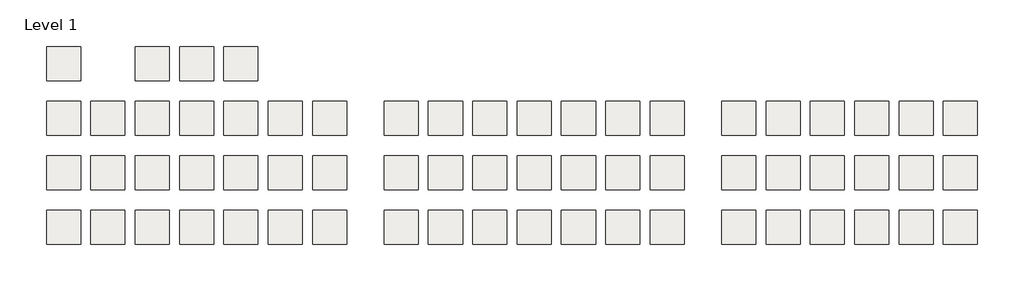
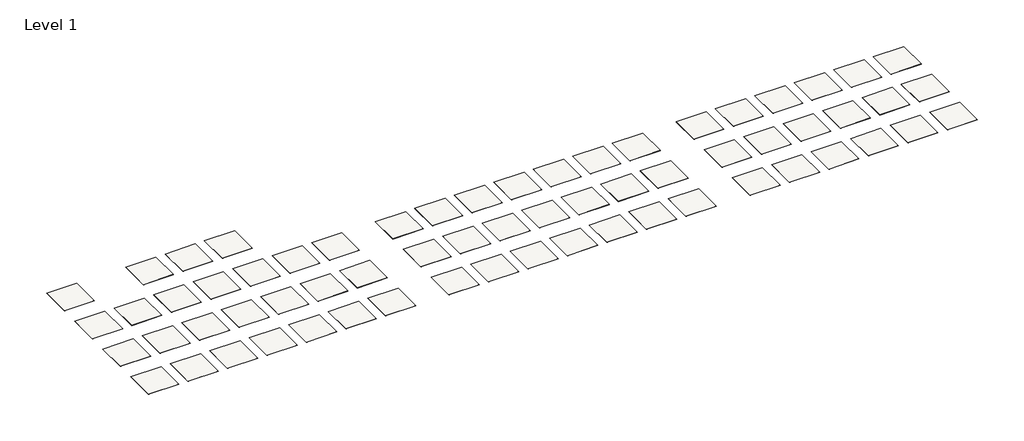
# One storey: 64 slabs.
"""IFC4 building model written with IfcOpenShell, lengths in millimetres."""

from ifc_helpers import new_model, si_unit, frame, origin, place, context, project, spatial, polyline, outline, extrude, element, save

model = new_model("IFC4")

# Units and contexts
model_context = context("Model", 3, world=origin())
ifc_project = project(units=[si_unit("LENGTHUNIT", "METRE", prefix="MILLI")], contexts=[model_context])

# Site, building, storey
site = spatial("IfcSite", under=ifc_project)
building = spatial("IfcBuilding", under=site)
storey = spatial("IfcBuildingStorey", under=building, Name="Level 1", Elevation=0.0)

# Slabs
placement = place(None, origin())
element("IfcSlab", 1, ObjectType="Armstrong_Sheet Vinyl_Medintone_H8300 cool white", at=placement, inside=storey, context=model_context, shape_type="SweptSolid", body=[
    extrude(outline(polyline([(3311.6055838, 2884.7695431), (3311.6055838, 1360.7695431), (1787.6055838, 1360.7695431), (1787.6055838, 2884.7695431), (3311.6055838, 2884.7695431)])), frame((0.0, 0.0, -1.984375), z_axis=(0.0, 0.0, 1.0), x_axis=(1.0, 0.0, 0.0)), (0.0, 0.0, 1.0), 1.984375),
])
element("IfcSlab", 2, ObjectType="Armstrong_Sheet Vinyl_Medintone_H8301 gray light", at=placement, inside=storey, context=model_context, shape_type="SweptSolid", body=[
    extrude(outline(polyline([(3311.6055838, 446.3695431), (3311.6055838, -1077.6304569), (1787.6055838, -1077.6304569), (1787.6055838, 446.3695431), (3311.6055838, 446.3695431)])), frame((0.0, 0.0, -1.984375), z_axis=(0.0, 0.0, 1.0), x_axis=(1.0, 0.0, 0.0)), (0.0, 0.0, 1.0), 1.984375),
])
element("IfcSlab", 3, ObjectType="Armstrong_Sheet Vinyl_Medintone_H8302 deep gray", at=placement, inside=storey, context=model_context, shape_type="SweptSolid", body=[
    extrude(outline(polyline([(3311.6055838, -1992.0304569), (3311.6055838, -3516.0304569), (1787.6055838, -3516.0304569), (1787.6055838, -1992.0304569), (3311.6055838, -1992.0304569)])), frame((0.0, 0.0, -1.984375), z_axis=(0.0, 0.0, 1.0), x_axis=(1.0, 0.0, 0.0)), (0.0, 0.0, 1.0), 1.984375),
])
element("IfcSlab", 4, ObjectType="Armstrong_Sheet Vinyl_Medintone_H8303 almost black", at=placement, inside=storey, context=model_context, shape_type="SweptSolid", body=[
    extrude(outline(polyline([(3311.6055838, -4430.4304569), (3311.6055838, -5954.4304569), (1787.6055838, -5954.4304569), (1787.6055838, -4430.4304569), (3311.6055838, -4430.4304569)])), frame((0.0, 0.0, -1.984375), z_axis=(0.0, 0.0, 1.0), x_axis=(1.0, 0.0, 0.0)), (0.0, 0.0, 1.0), 1.984375),
])
element("IfcSlab", 5, ObjectType="Armstrong_Sheet Vinyl_Medintone_H8304 natural gray light", at=placement, inside=storey, context=model_context, shape_type="SweptSolid", body=[
    extrude(outline(polyline([(5292.8055838, 446.3695431), (5292.8055838, -1077.6304569), (3768.8055838, -1077.6304569), (3768.8055838, 446.3695431), (5292.8055838, 446.3695431)])), frame((0.0, 0.0, -1.984375), z_axis=(0.0, 0.0, 1.0), x_axis=(1.0, 0.0, 0.0)), (0.0, 0.0, 1.0), 1.984375),
])
element("IfcSlab", 6, ObjectType="Armstrong_Sheet Vinyl_Medintone_H8305 natural gray", at=placement, inside=storey, context=model_context, shape_type="SweptSolid", body=[
    extrude(outline(polyline([(5292.8055838, -1992.0304569), (5292.8055838, -3516.0304569), (3768.8055838, -3516.0304569), (3768.8055838, -1992.0304569), (5292.8055838, -1992.0304569)])), frame((0.0, 0.0, -1.984375), z_axis=(0.0, 0.0, 1.0), x_axis=(1.0, 0.0, 0.0)), (0.0, 0.0, 1.0), 1.984375),
])
element("IfcSlab", 7, ObjectType="Armstrong_Sheet Vinyl_Medintone_H8306 natural gray dark", at=placement, inside=storey, context=model_context, shape_type="SweptSolid", body=[
    extrude(outline(polyline([(5292.8055838, -4430.4304569), (5292.8055838, -5954.4304569), (3768.8055838, -5954.4304569), (3768.8055838, -4430.4304569), (5292.8055838, -4430.4304569)])), frame((0.0, 0.0, -1.984375), z_axis=(0.0, 0.0, 1.0), x_axis=(1.0, 0.0, 0.0)), (0.0, 0.0, 1.0), 1.984375),
])
element("IfcSlab", 8, ObjectType="Armstrong_Sheet Vinyl_Medintone_H8307 rock dust light", at=placement, inside=storey, context=model_context, shape_type="SweptSolid", body=[
    extrude(outline(polyline([(7274.0055838, 2884.7695431), (7274.0055838, 1360.7695431), (5750.0055838, 1360.7695431), (5750.0055838, 2884.7695431), (7274.0055838, 2884.7695431)])), frame((0.0, 0.0, -1.984375), z_axis=(0.0, 0.0, 1.0), x_axis=(1.0, 0.0, 0.0)), (0.0, 0.0, 1.0), 1.984375),
])
element("IfcSlab", 9, ObjectType="Armstrong_Sheet Vinyl_Medintone_H8308 rock dust mid", at=placement, inside=storey, context=model_context, shape_type="SweptSolid", body=[
    extrude(outline(polyline([(7274.0055838, 446.3695431), (7274.0055838, -1077.6304569), (5750.0055838, -1077.6304569), (5750.0055838, 446.3695431), (7274.0055838, 446.3695431)])), frame((0.0, 0.0, -1.984375), z_axis=(0.0, 0.0, 1.0), x_axis=(1.0, 0.0, 0.0)), (0.0, 0.0, 1.0), 1.984375),
])
element("IfcSlab", 10, ObjectType="Armstrong_Sheet Vinyl_Medintone_H8309 rock dust", at=placement, inside=storey, context=model_context, shape_type="SweptSolid", body=[
    extrude(outline(polyline([(7274.0055838, -1992.0304569), (7274.0055838, -3516.0304569), (5750.0055838, -3516.0304569), (5750.0055838, -1992.0304569), (7274.0055838, -1992.0304569)])), frame((0.0, 0.0, -1.984375), z_axis=(0.0, 0.0, 1.0), x_axis=(1.0, 0.0, 0.0)), (0.0, 0.0, 1.0), 1.984375),
])
element("IfcSlab", 11, ObjectType="Armstrong_Sheet Vinyl_Medintone_H8310 rock brown", at=placement, inside=storey, context=model_context, shape_type="SweptSolid", body=[
    extrude(outline(polyline([(7274.0055838, -4430.4304569), (7274.0055838, -5954.4304569), (5750.0055838, -5954.4304569), (5750.0055838, -4430.4304569), (7274.0055838, -4430.4304569)])), frame((0.0, 0.0, -1.984375), z_axis=(0.0, 0.0, 1.0), x_axis=(1.0, 0.0, 0.0)), (0.0, 0.0, 1.0), 1.984375),
])
element("IfcSlab", 12, ObjectType="Armstrong_Sheet Vinyl_Medintone_H8311 natural white", at=placement, inside=storey, context=model_context, shape_type="SweptSolid", body=[
    extrude(outline(polyline([(9255.2055838, 2884.7695431), (9255.2055838, 1360.7695431), (7731.2055838, 1360.7695431), (7731.2055838, 2884.7695431), (9255.2055838, 2884.7695431)])), frame((0.0, 0.0, -1.984375), z_axis=(0.0, 0.0, 1.0), x_axis=(1.0, 0.0, 0.0)), (0.0, 0.0, 1.0), 1.984375),
])
element("IfcSlab", 13, ObjectType="Armstrong_Sheet Vinyl_Medintone_H8312 natural", at=placement, inside=storey, context=model_context, shape_type="SweptSolid", body=[
    extrude(outline(polyline([(9255.2055838, 446.3695431), (9255.2055838, -1077.6304569), (7731.2055838, -1077.6304569), (7731.2055838, 446.3695431), (9255.2055838, 446.3695431)])), frame((0.0, 0.0, -1.984375), z_axis=(0.0, 0.0, 1.0), x_axis=(1.0, 0.0, 0.0)), (0.0, 0.0, 1.0), 1.984375),
])
element("IfcSlab", 14, ObjectType="Armstrong_Sheet Vinyl_Medintone_H8313 natural tone", at=placement, inside=storey, context=model_context, shape_type="SweptSolid", body=[
    extrude(outline(polyline([(9255.2055838, -1992.0304569), (9255.2055838, -3516.0304569), (7731.2055838, -3516.0304569), (7731.2055838, -1992.0304569), (9255.2055838, -1992.0304569)])), frame((0.0, 0.0, -1.984375), z_axis=(0.0, 0.0, 1.0), x_axis=(1.0, 0.0, 0.0)), (0.0, 0.0, 1.0), 1.984375),
])
element("IfcSlab", 15, ObjectType="Armstrong_Sheet Vinyl_Medintone_H8314 natural brown", at=placement, inside=storey, context=model_context, shape_type="SweptSolid", body=[
    extrude(outline(polyline([(9255.2055838, -4430.4304569), (9255.2055838, -5954.4304569), (7731.2055838, -5954.4304569), (7731.2055838, -4430.4304569), (9255.2055838, -4430.4304569)])), frame((0.0, 0.0, -1.984375), z_axis=(0.0, 0.0, 1.0), x_axis=(1.0, 0.0, 0.0)), (0.0, 0.0, 1.0), 1.984375),
])
element("IfcSlab", 16, ObjectType="Armstrong_Sheet Vinyl_Medintone_H8315 light chocolate", at=placement, inside=storey, context=model_context, shape_type="SweptSolid", body=[
    extrude(outline(polyline([(11236.4055838, 2884.7695431), (11236.4055838, 1360.7695431), (9712.4055838, 1360.7695431), (9712.4055838, 2884.7695431), (11236.4055838, 2884.7695431)])), frame((0.0, 0.0, -1.984375), z_axis=(0.0, 0.0, 1.0), x_axis=(1.0, 0.0, 0.0)), (0.0, 0.0, 1.0), 1.984375),
])
element("IfcSlab", 17, ObjectType="Armstrong_Sheet Vinyl_Medintone_H8316 powder chocolate", at=placement, inside=storey, context=model_context, shape_type="SweptSolid", body=[
    extrude(outline(polyline([(11236.4055838, 446.3695431), (11236.4055838, -1077.6304569), (9712.4055838, -1077.6304569), (9712.4055838, 446.3695431), (11236.4055838, 446.3695431)])), frame((0.0, 0.0, -1.984375), z_axis=(0.0, 0.0, 1.0), x_axis=(1.0, 0.0, 0.0)), (0.0, 0.0, 1.0), 1.984375),
])
element("IfcSlab", 18, ObjectType="Armstrong_Sheet Vinyl_Medintone_H8317 milk chocolate 2", at=placement, inside=storey, context=model_context, shape_type="SweptSolid", body=[
    extrude(outline(polyline([(11236.4055838, -1992.0304569), (11236.4055838, -3516.0304569), (9712.4055838, -3516.0304569), (9712.4055838, -1992.0304569), (11236.4055838, -1992.0304569)])), frame((0.0, 0.0, -1.984375), z_axis=(0.0, 0.0, 1.0), x_axis=(1.0, 0.0, 0.0)), (0.0, 0.0, 1.0), 1.984375),
])
element("IfcSlab", 19, ObjectType="Armstrong_Sheet Vinyl_Medintone_H8318 chocolate brown", at=placement, inside=storey, context=model_context, shape_type="SweptSolid", body=[
    extrude(outline(polyline([(11236.4055838, -4430.4304569), (11236.4055838, -5954.4304569), (9712.4055838, -5954.4304569), (9712.4055838, -4430.4304569), (11236.4055838, -4430.4304569)])), frame((0.0, 0.0, -1.984375), z_axis=(0.0, 0.0, 1.0), x_axis=(1.0, 0.0, 0.0)), (0.0, 0.0, 1.0), 1.984375),
])
element("IfcSlab", 20, ObjectType="Armstrong_Sheet Vinyl_Medintone_H8319 sand light", at=placement, inside=storey, context=model_context, shape_type="SweptSolid", body=[
    extrude(outline(polyline([(13217.6055838, 446.3695431), (13217.6055838, -1077.6304569), (11693.6055838, -1077.6304569), (11693.6055838, 446.3695431), (13217.6055838, 446.3695431)])), frame((0.0, 0.0, -1.984375), z_axis=(0.0, 0.0, 1.0), x_axis=(1.0, 0.0, 0.0)), (0.0, 0.0, 1.0), 1.984375),
])
element("IfcSlab", 21, ObjectType="Armstrong_Sheet Vinyl_Medintone_H8320 sand mid", at=placement, inside=storey, context=model_context, shape_type="SweptSolid", body=[
    extrude(outline(polyline([(13217.6055838, -1992.0304569), (13217.6055838, -3516.0304569), (11693.6055838, -3516.0304569), (11693.6055838, -1992.0304569), (13217.6055838, -1992.0304569)])), frame((0.0, 0.0, -1.984375), z_axis=(0.0, 0.0, 1.0), x_axis=(1.0, 0.0, 0.0)), (0.0, 0.0, 1.0), 1.984375),
])
element("IfcSlab", 22, ObjectType="Armstrong_Sheet Vinyl_Medintone_H8321 sand", at=placement, inside=storey, context=model_context, shape_type="SweptSolid", body=[
    extrude(outline(polyline([(13217.6055838, -4430.4304569), (13217.6055838, -5954.4304569), (11693.6055838, -5954.4304569), (11693.6055838, -4430.4304569), (13217.6055838, -4430.4304569)])), frame((0.0, 0.0, -1.984375), z_axis=(0.0, 0.0, 1.0), x_axis=(1.0, 0.0, 0.0)), (0.0, 0.0, 1.0), 1.984375),
])
element("IfcSlab", 23, ObjectType="Armstrong_Sheet Vinyl_Medintone_H8322 amber light", at=placement, inside=storey, context=model_context, shape_type="SweptSolid", body=[
    extrude(outline(polyline([(15198.8055838, 446.3695431), (15198.8055838, -1077.6304569), (13674.8055838, -1077.6304569), (13674.8055838, 446.3695431), (15198.8055838, 446.3695431)])), frame((0.0, 0.0, -1.984375), z_axis=(0.0, 0.0, 1.0), x_axis=(1.0, 0.0, 0.0)), (0.0, 0.0, 1.0), 1.984375),
])
element("IfcSlab", 24, ObjectType="Armstrong_Sheet Vinyl_Medintone_H8323 amber mid", at=placement, inside=storey, context=model_context, shape_type="SweptSolid", body=[
    extrude(outline(polyline([(15198.8055838, -1992.0304569), (15198.8055838, -3516.0304569), (13674.8055838, -3516.0304569), (13674.8055838, -1992.0304569), (15198.8055838, -1992.0304569)])), frame((0.0, 0.0, -1.984375), z_axis=(0.0, 0.0, 1.0), x_axis=(1.0, 0.0, 0.0)), (0.0, 0.0, 1.0), 1.984375),
])
element("IfcSlab", 25, ObjectType="Armstrong_Sheet Vinyl_Medintone_H8324 amber", at=placement, inside=storey, context=model_context, shape_type="SweptSolid", body=[
    extrude(outline(polyline([(15198.8055838, -4430.4304569), (15198.8055838, -5954.4304569), (13674.8055838, -5954.4304569), (13674.8055838, -4430.4304569), (15198.8055838, -4430.4304569)])), frame((0.0, 0.0, -1.984375), z_axis=(0.0, 0.0, 1.0), x_axis=(1.0, 0.0, 0.0)), (0.0, 0.0, 1.0), 1.984375),
])
element("IfcSlab", 26, ObjectType="Armstrong_Sheet Vinyl_Medintone_H8325 purple brown light", at=placement, inside=storey, context=model_context, shape_type="SweptSolid", body=[
    extrude(outline(polyline([(18399.2055838, 446.3695431), (18399.2055838, -1077.6304569), (16875.2055838, -1077.6304569), (16875.2055838, 446.3695431), (18399.2055838, 446.3695431)])), frame((0.0, 0.0, -1.984375), z_axis=(0.0, 0.0, 1.0), x_axis=(1.0, 0.0, 0.0)), (0.0, 0.0, 1.0), 1.984375),
])
element("IfcSlab", 27, ObjectType="Armstrong_Sheet Vinyl_Medintone_H8326 purple brown mid", at=placement, inside=storey, context=model_context, shape_type="SweptSolid", body=[
    extrude(outline(polyline([(18399.2055838, -1992.0304569), (18399.2055838, -3516.0304569), (16875.2055838, -3516.0304569), (16875.2055838, -1992.0304569), (18399.2055838, -1992.0304569)])), frame((0.0, 0.0, -1.984375), z_axis=(0.0, 0.0, 1.0), x_axis=(1.0, 0.0, 0.0)), (0.0, 0.0, 1.0), 1.984375),
])
element("IfcSlab", 28, ObjectType="Armstrong_Sheet Vinyl_Medintone_H8327 purple brown", at=placement, inside=storey, context=model_context, shape_type="SweptSolid", body=[
    extrude(outline(polyline([(18399.2055838, -4430.4304569), (18399.2055838, -5954.4304569), (16875.2055838, -5954.4304569), (16875.2055838, -4430.4304569), (18399.2055838, -4430.4304569)])), frame((0.0, 0.0, -1.984375), z_axis=(0.0, 0.0, 1.0), x_axis=(1.0, 0.0, 0.0)), (0.0, 0.0, 1.0), 1.984375),
])
element("IfcSlab", 29, ObjectType="Armstrong_Sheet Vinyl_Medintone_H8328 grayed blue light", at=placement, inside=storey, context=model_context, shape_type="SweptSolid", body=[
    extrude(outline(polyline([(20380.4055838, 446.3695431), (20380.4055838, -1077.6304569), (18856.4055838, -1077.6304569), (18856.4055838, 446.3695431), (20380.4055838, 446.3695431)])), frame((0.0, 0.0, -1.984375), z_axis=(0.0, 0.0, 1.0), x_axis=(1.0, 0.0, 0.0)), (0.0, 0.0, 1.0), 1.984375),
])
element("IfcSlab", 30, ObjectType="Armstrong_Sheet Vinyl_Medintone_H8329 grayed blue mid", at=placement, inside=storey, context=model_context, shape_type="SweptSolid", body=[
    extrude(outline(polyline([(20380.4055838, -1992.0304569), (20380.4055838, -3516.0304569), (18856.4055838, -3516.0304569), (18856.4055838, -1992.0304569), (20380.4055838, -1992.0304569)])), frame((0.0, 0.0, -1.984375), z_axis=(0.0, 0.0, 1.0), x_axis=(1.0, 0.0, 0.0)), (0.0, 0.0, 1.0), 1.984375),
])
element("IfcSlab", 31, ObjectType="Armstrong_Sheet Vinyl_Medintone_H8330 grayed blue", at=placement, inside=storey, context=model_context, shape_type="SweptSolid", body=[
    extrude(outline(polyline([(20380.4055838, -4430.4304569), (20380.4055838, -5954.4304569), (18856.4055838, -5954.4304569), (18856.4055838, -4430.4304569), (20380.4055838, -4430.4304569)])), frame((0.0, 0.0, -1.984375), z_axis=(0.0, 0.0, 1.0), x_axis=(1.0, 0.0, 0.0)), (0.0, 0.0, 1.0), 1.984375),
])
element("IfcSlab", 32, ObjectType="Armstrong_Sheet Vinyl_Medintone_H8331 tea green light", at=placement, inside=storey, context=model_context, shape_type="SweptSolid", body=[
    extrude(outline(polyline([(22361.6055838, 446.3695431), (22361.6055838, -1077.6304569), (20837.6055838, -1077.6304569), (20837.6055838, 446.3695431), (22361.6055838, 446.3695431)])), frame((0.0, 0.0, -1.984375), z_axis=(0.0, 0.0, 1.0), x_axis=(1.0, 0.0, 0.0)), (0.0, 0.0, 1.0), 1.984375),
])
element("IfcSlab", 33, ObjectType="Armstrong_Sheet Vinyl_Medintone_H8332 tea green mid", at=placement, inside=storey, context=model_context, shape_type="SweptSolid", body=[
    extrude(outline(polyline([(22361.6055838, -1992.0304569), (22361.6055838, -3516.0304569), (20837.6055838, -3516.0304569), (20837.6055838, -1992.0304569), (22361.6055838, -1992.0304569)])), frame((0.0, 0.0, -1.984375), z_axis=(0.0, 0.0, 1.0), x_axis=(1.0, 0.0, 0.0)), (0.0, 0.0, 1.0), 1.984375),
])
element("IfcSlab", 34, ObjectType="Armstrong_Sheet Vinyl_Medintone_H8333 tea green", at=placement, inside=storey, context=model_context, shape_type="SweptSolid", body=[
    extrude(outline(polyline([(22361.6055838, -4430.4304569), (22361.6055838, -5954.4304569), (20837.6055838, -5954.4304569), (20837.6055838, -4430.4304569), (22361.6055838, -4430.4304569)])), frame((0.0, 0.0, -1.984375), z_axis=(0.0, 0.0, 1.0), x_axis=(1.0, 0.0, 0.0)), (0.0, 0.0, 1.0), 1.984375),
])
element("IfcSlab", 35, ObjectType="Armstrong_Sheet Vinyl_Medintone_H8334 gold dust light", at=placement, inside=storey, context=model_context, shape_type="SweptSolid", body=[
    extrude(outline(polyline([(24342.8055838, 446.3695431), (24342.8055838, -1077.6304569), (22818.8055838, -1077.6304569), (22818.8055838, 446.3695431), (24342.8055838, 446.3695431)])), frame((0.0, 0.0, -1.984375), z_axis=(0.0, 0.0, 1.0), x_axis=(1.0, 0.0, 0.0)), (0.0, 0.0, 1.0), 1.984375),
])
element("IfcSlab", 36, ObjectType="Armstrong_Sheet Vinyl_Medintone_H8335 gold dust mid", at=placement, inside=storey, context=model_context, shape_type="SweptSolid", body=[
    extrude(outline(polyline([(24342.8055838, -1992.0304569), (24342.8055838, -3516.0304569), (22818.8055838, -3516.0304569), (22818.8055838, -1992.0304569), (24342.8055838, -1992.0304569)])), frame((0.0, 0.0, -1.984375), z_axis=(0.0, 0.0, 1.0), x_axis=(1.0, 0.0, 0.0)), (0.0, 0.0, 1.0), 1.984375),
])
element("IfcSlab", 37, ObjectType="Armstrong_Sheet Vinyl_Medintone_H8336 gold dust", at=placement, inside=storey, context=model_context, shape_type="SweptSolid", body=[
    extrude(outline(polyline([(24342.8055838, -4430.4304569), (24342.8055838, -5954.4304569), (22818.8055838, -5954.4304569), (22818.8055838, -4430.4304569), (24342.8055838, -4430.4304569)])), frame((0.0, 0.0, -1.984375), z_axis=(0.0, 0.0, 1.0), x_axis=(1.0, 0.0, 0.0)), (0.0, 0.0, 1.0), 1.984375),
])
element("IfcSlab", 38, ObjectType="Armstrong_Sheet Vinyl_Medintone_H8337 orange spice light", at=placement, inside=storey, context=model_context, shape_type="SweptSolid", body=[
    extrude(outline(polyline([(26324.0055838, 446.3695431), (26324.0055838, -1077.6304569), (24800.0055838, -1077.6304569), (24800.0055838, 446.3695431), (26324.0055838, 446.3695431)])), frame((0.0, 0.0, -1.984375), z_axis=(0.0, 0.0, 1.0), x_axis=(1.0, 0.0, 0.0)), (0.0, 0.0, 1.0), 1.984375),
])
element("IfcSlab", 39, ObjectType="Armstrong_Sheet Vinyl_Medintone_H8338 orange spice mid", at=placement, inside=storey, context=model_context, shape_type="SweptSolid", body=[
    extrude(outline(polyline([(26324.0055838, -1992.0304569), (26324.0055838, -3516.0304569), (24800.0055838, -3516.0304569), (24800.0055838, -1992.0304569), (26324.0055838, -1992.0304569)])), frame((0.0, 0.0, -1.984375), z_axis=(0.0, 0.0, 1.0), x_axis=(1.0, 0.0, 0.0)), (0.0, 0.0, 1.0), 1.984375),
])
element("IfcSlab", 40, ObjectType="Armstrong_Sheet Vinyl_Medintone_H8339 orange spice", at=placement, inside=storey, context=model_context, shape_type="SweptSolid", body=[
    extrude(outline(polyline([(26324.0055838, -4430.4304569), (26324.0055838, -5954.4304569), (24800.0055838, -5954.4304569), (24800.0055838, -4430.4304569), (26324.0055838, -4430.4304569)])), frame((0.0, 0.0, -1.984375), z_axis=(0.0, 0.0, 1.0), x_axis=(1.0, 0.0, 0.0)), (0.0, 0.0, 1.0), 1.984375),
])
element("IfcSlab", 41, ObjectType="Armstrong_Sheet Vinyl_Medintone_H8340 terracotta light", at=placement, inside=storey, context=model_context, shape_type="SweptSolid", body=[
    extrude(outline(polyline([(28305.2055838, 446.3695431), (28305.2055838, -1077.6304569), (26781.2055838, -1077.6304569), (26781.2055838, 446.3695431), (28305.2055838, 446.3695431)])), frame((0.0, 0.0, -1.984375), z_axis=(0.0, 0.0, 1.0), x_axis=(1.0, 0.0, 0.0)), (0.0, 0.0, 1.0), 1.984375),
])
element("IfcSlab", 42, ObjectType="Armstrong_Sheet Vinyl_Medintone_H8341 terracotta mid", at=placement, inside=storey, context=model_context, shape_type="SweptSolid", body=[
    extrude(outline(polyline([(28305.2055838, -1992.0304569), (28305.2055838, -3516.0304569), (26781.2055838, -3516.0304569), (26781.2055838, -1992.0304569), (28305.2055838, -1992.0304569)])), frame((0.0, 0.0, -1.984375), z_axis=(0.0, 0.0, 1.0), x_axis=(1.0, 0.0, 0.0)), (0.0, 0.0, 1.0), 1.984375),
])
element("IfcSlab", 43, ObjectType="Armstrong_Sheet Vinyl_Medintone_H8342 terracotta", at=placement, inside=storey, context=model_context, shape_type="SweptSolid", body=[
    extrude(outline(polyline([(28305.2055838, -4430.4304569), (28305.2055838, -5954.4304569), (26781.2055838, -5954.4304569), (26781.2055838, -4430.4304569), (28305.2055838, -4430.4304569)])), frame((0.0, 0.0, -1.984375), z_axis=(0.0, 0.0, 1.0), x_axis=(1.0, 0.0, 0.0)), (0.0, 0.0, 1.0), 1.984375),
])
element("IfcSlab", 44, ObjectType="Armstrong_Sheet Vinyl_Medintone_H8343 brick red light", at=placement, inside=storey, context=model_context, shape_type="SweptSolid", body=[
    extrude(outline(polyline([(30286.4055838, 446.3695431), (30286.4055838, -1077.6304569), (28762.4055838, -1077.6304569), (28762.4055838, 446.3695431), (30286.4055838, 446.3695431)])), frame((0.0, 0.0, -1.984375), z_axis=(0.0, 0.0, 1.0), x_axis=(1.0, 0.0, 0.0)), (0.0, 0.0, 1.0), 1.984375),
])
element("IfcSlab", 45, ObjectType="Armstrong_Sheet Vinyl_Medintone_H8344 brick red mid", at=placement, inside=storey, context=model_context, shape_type="SweptSolid", body=[
    extrude(outline(polyline([(30286.4055838, -1992.0304569), (30286.4055838, -3516.0304569), (28762.4055838, -3516.0304569), (28762.4055838, -1992.0304569), (30286.4055838, -1992.0304569)])), frame((0.0, 0.0, -1.984375), z_axis=(0.0, 0.0, 1.0), x_axis=(1.0, 0.0, 0.0)), (0.0, 0.0, 1.0), 1.984375),
])
element("IfcSlab", 46, ObjectType="Armstrong_Sheet Vinyl_Medintone_H8345 brick red", at=placement, inside=storey, context=model_context, shape_type="SweptSolid", body=[
    extrude(outline(polyline([(30286.4055838, -4430.4304569), (30286.4055838, -5954.4304569), (28762.4055838, -5954.4304569), (28762.4055838, -4430.4304569), (30286.4055838, -4430.4304569)])), frame((0.0, 0.0, -1.984375), z_axis=(0.0, 0.0, 1.0), x_axis=(1.0, 0.0, 0.0)), (0.0, 0.0, 1.0), 1.984375),
])
element("IfcSlab", 47, ObjectType="Armstrong_Sheet Vinyl_Medintone_H8346 violet mist light", at=placement, inside=storey, context=model_context, shape_type="SweptSolid", body=[
    extrude(outline(polyline([(33486.8055838, 446.3695431), (33486.8055838, -1077.6304569), (31962.8055838, -1077.6304569), (31962.8055838, 446.3695431), (33486.8055838, 446.3695431)])), frame((0.0, 0.0, -1.984375), z_axis=(0.0, 0.0, 1.0), x_axis=(1.0, 0.0, 0.0)), (0.0, 0.0, 1.0), 1.984375),
])
element("IfcSlab", 48, ObjectType="Armstrong_Sheet Vinyl_Medintone_H8347 violet mist mid", at=placement, inside=storey, context=model_context, shape_type="SweptSolid", body=[
    extrude(outline(polyline([(33486.8055838, -1992.0304569), (33486.8055838, -3516.0304569), (31962.8055838, -3516.0304569), (31962.8055838, -1992.0304569), (33486.8055838, -1992.0304569)])), frame((0.0, 0.0, -1.984375), z_axis=(0.0, 0.0, 1.0), x_axis=(1.0, 0.0, 0.0)), (0.0, 0.0, 1.0), 1.984375),
])
element("IfcSlab", 49, ObjectType="Armstrong_Sheet Vinyl_Medintone_H8348 violet mist", at=placement, inside=storey, context=model_context, shape_type="SweptSolid", body=[
    extrude(outline(polyline([(33486.8055838, -4430.4304569), (33486.8055838, -5954.4304569), (31962.8055838, -5954.4304569), (31962.8055838, -4430.4304569), (33486.8055838, -4430.4304569)])), frame((0.0, 0.0, -1.984375), z_axis=(0.0, 0.0, 1.0), x_axis=(1.0, 0.0, 0.0)), (0.0, 0.0, 1.0), 1.984375),
])
element("IfcSlab", 50, ObjectType="Armstrong_Sheet Vinyl_Medintone_H8349 indigo light", at=placement, inside=storey, context=model_context, shape_type="SweptSolid", body=[
    extrude(outline(polyline([(35468.0055838, 446.3695431), (35468.0055838, -1077.6304569), (33944.0055838, -1077.6304569), (33944.0055838, 446.3695431), (35468.0055838, 446.3695431)])), frame((0.0, 0.0, -1.984375), z_axis=(0.0, 0.0, 1.0), x_axis=(1.0, 0.0, 0.0)), (0.0, 0.0, 1.0), 1.984375),
])
element("IfcSlab", 51, ObjectType="Armstrong_Sheet Vinyl_Medintone_H8350 indigo mid", at=placement, inside=storey, context=model_context, shape_type="SweptSolid", body=[
    extrude(outline(polyline([(35468.0055838, -1992.0304569), (35468.0055838, -3516.0304569), (33944.0055838, -3516.0304569), (33944.0055838, -1992.0304569), (35468.0055838, -1992.0304569)])), frame((0.0, 0.0, -1.984375), z_axis=(0.0, 0.0, 1.0), x_axis=(1.0, 0.0, 0.0)), (0.0, 0.0, 1.0), 1.984375),
])
element("IfcSlab", 52, ObjectType="Armstrong_Sheet Vinyl_Medintone_H8351 indigo", at=placement, inside=storey, context=model_context, shape_type="SweptSolid", body=[
    extrude(outline(polyline([(35468.0055838, -4430.4304569), (35468.0055838, -5954.4304569), (33944.0055838, -5954.4304569), (33944.0055838, -4430.4304569), (35468.0055838, -4430.4304569)])), frame((0.0, 0.0, -1.984375), z_axis=(0.0, 0.0, 1.0), x_axis=(1.0, 0.0, 0.0)), (0.0, 0.0, 1.0), 1.984375),
])
element("IfcSlab", 53, ObjectType="Armstrong_Sheet Vinyl_Medintone_H8352 water blue light", at=placement, inside=storey, context=model_context, shape_type="SweptSolid", body=[
    extrude(outline(polyline([(37449.2055838, 446.3695431), (37449.2055838, -1077.6304569), (35925.2055838, -1077.6304569), (35925.2055838, 446.3695431), (37449.2055838, 446.3695431)])), frame((0.0, 0.0, -1.984375), z_axis=(0.0, 0.0, 1.0), x_axis=(1.0, 0.0, 0.0)), (0.0, 0.0, 1.0), 1.984375),
])
element("IfcSlab", 54, ObjectType="Armstrong_Sheet Vinyl_Medintone_H8353 water blue mid", at=placement, inside=storey, context=model_context, shape_type="SweptSolid", body=[
    extrude(outline(polyline([(37449.2055838, -1992.0304569), (37449.2055838, -3516.0304569), (35925.2055838, -3516.0304569), (35925.2055838, -1992.0304569), (37449.2055838, -1992.0304569)])), frame((0.0, 0.0, -1.984375), z_axis=(0.0, 0.0, 1.0), x_axis=(1.0, 0.0, 0.0)), (0.0, 0.0, 1.0), 1.984375),
])
element("IfcSlab", 55, ObjectType="Armstrong_Sheet Vinyl_Medintone_H8354 water blue", at=placement, inside=storey, context=model_context, shape_type="SweptSolid", body=[
    extrude(outline(polyline([(37449.2055838, -4430.4304569), (37449.2055838, -5954.4304569), (35925.2055838, -5954.4304569), (35925.2055838, -4430.4304569), (37449.2055838, -4430.4304569)])), frame((0.0, 0.0, -1.984375), z_axis=(0.0, 0.0, 1.0), x_axis=(1.0, 0.0, 0.0)), (0.0, 0.0, 1.0), 1.984375),
])
element("IfcSlab", 56, ObjectType="Armstrong_Sheet Vinyl_Medintone_H8355 woodland blue light", at=placement, inside=storey, context=model_context, shape_type="SweptSolid", body=[
    extrude(outline(polyline([(39430.4055838, 446.3695431), (39430.4055838, -1077.6304569), (37906.4055838, -1077.6304569), (37906.4055838, 446.3695431), (39430.4055838, 446.3695431)])), frame((0.0, 0.0, -1.984375), z_axis=(0.0, 0.0, 1.0), x_axis=(1.0, 0.0, 0.0)), (0.0, 0.0, 1.0), 1.984375),
])
element("IfcSlab", 57, ObjectType="Armstrong_Sheet Vinyl_Medintone_H8356 woodland blue mid", at=placement, inside=storey, context=model_context, shape_type="SweptSolid", body=[
    extrude(outline(polyline([(39430.4055838, -1992.0304569), (39430.4055838, -3516.0304569), (37906.4055838, -3516.0304569), (37906.4055838, -1992.0304569), (39430.4055838, -1992.0304569)])), frame((0.0, 0.0, -1.984375), z_axis=(0.0, 0.0, 1.0), x_axis=(1.0, 0.0, 0.0)), (0.0, 0.0, 1.0), 1.984375),
])
element("IfcSlab", 58, ObjectType="Armstrong_Sheet Vinyl_Medintone_H8357 woodland blue", at=placement, inside=storey, context=model_context, shape_type="SweptSolid", body=[
    extrude(outline(polyline([(39430.4055838, -4430.4304569), (39430.4055838, -5954.4304569), (37906.4055838, -5954.4304569), (37906.4055838, -4430.4304569), (39430.4055838, -4430.4304569)])), frame((0.0, 0.0, -1.984375), z_axis=(0.0, 0.0, 1.0), x_axis=(1.0, 0.0, 0.0)), (0.0, 0.0, 1.0), 1.984375),
])
element("IfcSlab", 59, ObjectType="Armstrong_Sheet Vinyl_Medintone_H8358 soft green light", at=placement, inside=storey, context=model_context, shape_type="SweptSolid", body=[
    extrude(outline(polyline([(41411.6055838, 446.3695431), (41411.6055838, -1077.6304569), (39887.6055838, -1077.6304569), (39887.6055838, 446.3695431), (41411.6055838, 446.3695431)])), frame((0.0, 0.0, -1.984375), z_axis=(0.0, 0.0, 1.0), x_axis=(1.0, 0.0, 0.0)), (0.0, 0.0, 1.0), 1.984375),
])
element("IfcSlab", 60, ObjectType="Armstrong_Sheet Vinyl_Medintone_H8359 soft green mid", at=placement, inside=storey, context=model_context, shape_type="SweptSolid", body=[
    extrude(outline(polyline([(41411.6055838, -1992.0304569), (41411.6055838, -3516.0304569), (39887.6055838, -3516.0304569), (39887.6055838, -1992.0304569), (41411.6055838, -1992.0304569)])), frame((0.0, 0.0, -1.984375), z_axis=(0.0, 0.0, 1.0), x_axis=(1.0, 0.0, 0.0)), (0.0, 0.0, 1.0), 1.984375),
])
element("IfcSlab", 61, ObjectType="Armstrong_Sheet Vinyl_Medintone_H8360 soft green", at=placement, inside=storey, context=model_context, shape_type="SweptSolid", body=[
    extrude(outline(polyline([(41411.6055838, -4430.4304569), (41411.6055838, -5954.4304569), (39887.6055838, -5954.4304569), (39887.6055838, -4430.4304569), (41411.6055838, -4430.4304569)])), frame((0.0, 0.0, -1.984375), z_axis=(0.0, 0.0, 1.0), x_axis=(1.0, 0.0, 0.0)), (0.0, 0.0, 1.0), 1.984375),
])
element("IfcSlab", 62, ObjectType="Armstrong_Sheet Vinyl_Medintone_H8361 refresh green light", at=placement, inside=storey, context=model_context, shape_type="SweptSolid", body=[
    extrude(outline(polyline([(43392.8055838, 446.3695431), (43392.8055838, -1077.6304569), (41868.8055838, -1077.6304569), (41868.8055838, 446.3695431), (43392.8055838, 446.3695431)])), frame((0.0, 0.0, -1.984375), z_axis=(0.0, 0.0, 1.0), x_axis=(1.0, 0.0, 0.0)), (0.0, 0.0, 1.0), 1.984375),
])
element("IfcSlab", 63, ObjectType="Armstrong_Sheet Vinyl_Medintone_H8362 refresh green mid", at=placement, inside=storey, context=model_context, shape_type="SweptSolid", body=[
    extrude(outline(polyline([(43392.8055838, -1992.0304569), (43392.8055838, -3516.0304569), (41868.8055838, -3516.0304569), (41868.8055838, -1992.0304569), (43392.8055838, -1992.0304569)])), frame((0.0, 0.0, -1.984375), z_axis=(0.0, 0.0, 1.0), x_axis=(1.0, 0.0, 0.0)), (0.0, 0.0, 1.0), 1.984375),
])
element("IfcSlab", 64, ObjectType="Armstrong_Sheet Vinyl_Medintone_H8363 refresh green", at=placement, inside=storey, context=model_context, shape_type="SweptSolid", body=[
    extrude(outline(polyline([(43392.8055838, -4430.4304569), (43392.8055838, -5954.4304569), (41868.8055838, -5954.4304569), (41868.8055838, -4430.4304569), (43392.8055838, -4430.4304569)])), frame((0.0, 0.0, -1.984375), z_axis=(0.0, 0.0, 1.0), x_axis=(1.0, 0.0, 0.0)), (0.0, 0.0, 1.0), 1.984375),
])

save(model, "model.ifc")
